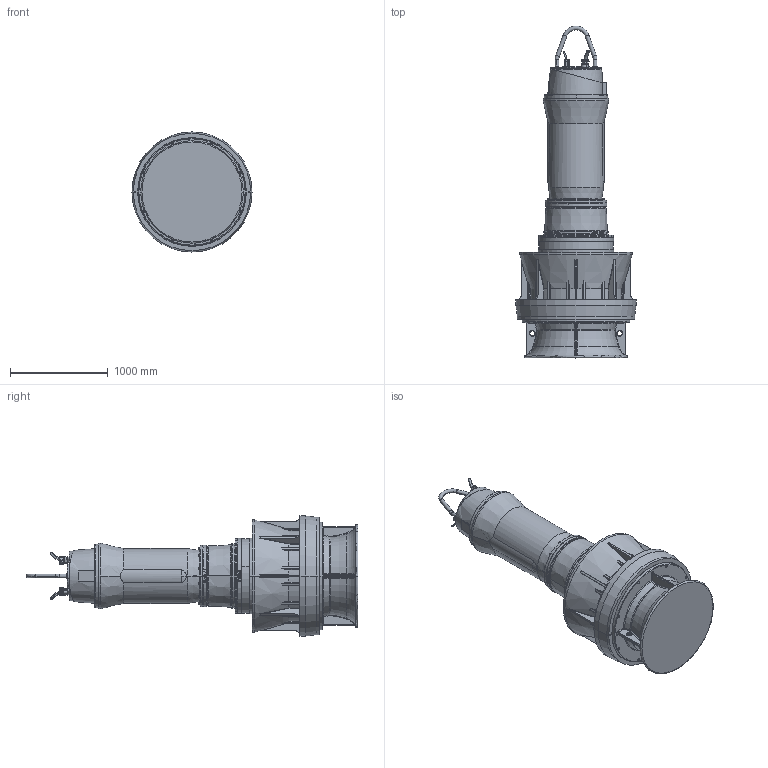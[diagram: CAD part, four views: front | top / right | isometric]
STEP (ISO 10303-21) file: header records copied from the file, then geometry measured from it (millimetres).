
FILE_DESCRIPTION (( 'STEP AP214' ), '1' );
FILE_NAME ('PE6_VUPX1000 G3_STD_B_NG2.STEP', '2017-04-24T08:58:10', ( '' ), ( '' ), 'SwSTEP 2.0', 'SolidWorks 2017', '' );
FILE_SCHEMA (( 'AUTOMOTIVE_DESIGN' ));
Length unit declared in the file: millimetre
Products named in the file (1): PE6_VUPX1000 G3_STD_B_NG2
Bounding box: 1230 x 3399 x 1230 mm (x, y, z)
Volume: 1389379314.8 mm3; surface area: 12961958 mm2
Topology: 3 solids, 40 shells, 3106 faces, 7426 edges, 4399 vertices
Faces by surface type: plane 947, cylinder 906, bspline 410, cone 364, torus 364, sphere 115
Entity records: 151977 total; most frequent: CARTESIAN_POINT 49174, ORIENTED_EDGE 14524, DIRECTION 13989, EDGE_CURVE 7262, AXIS2_PLACEMENT_3D 5564, VERTEX_POINT 4394, EDGE_LOOP 3368, UNCERTAINTY_MEASURE_WITH_UNIT 3111
